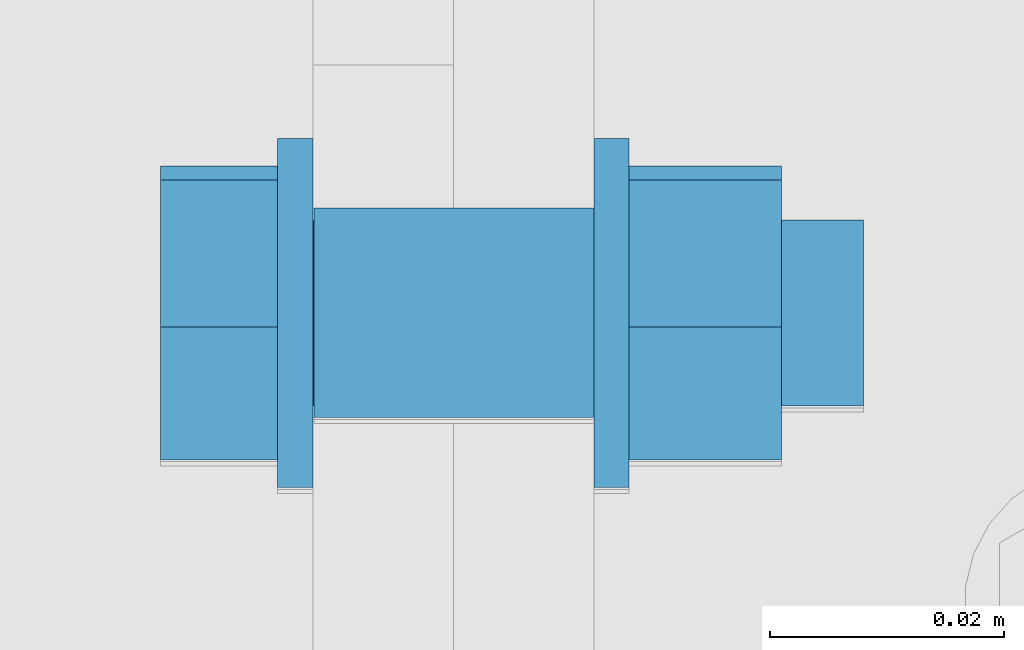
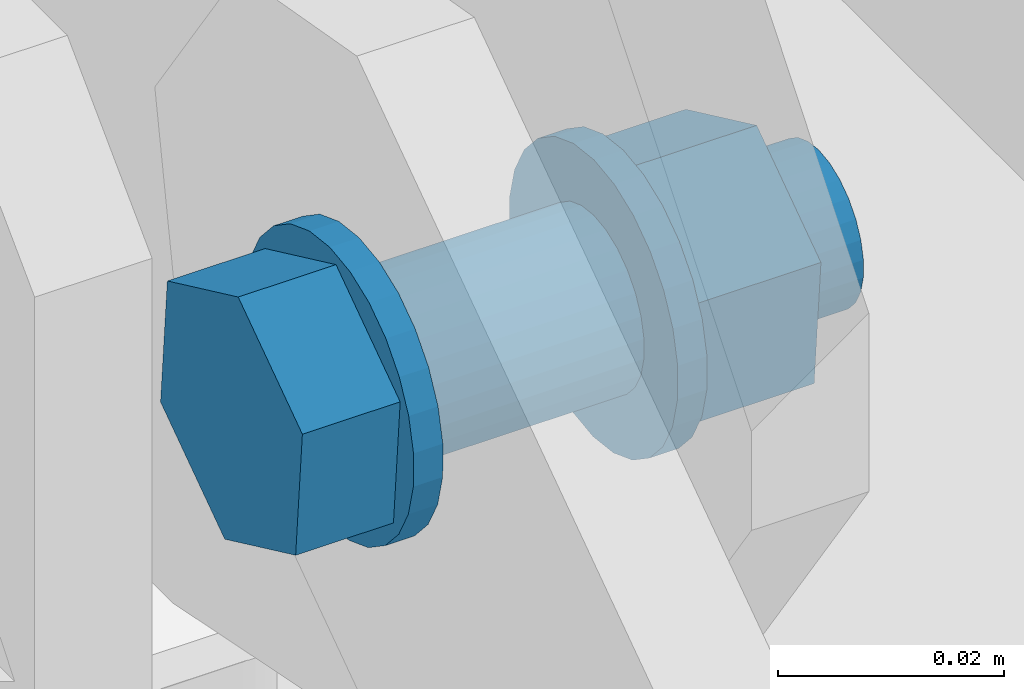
# One storey, part 239 of 271: 1 mechanical fastener, 1 element without a shape of its own.
"""IFC2X3 building model written with IfcOpenShell, lengths in millimetres."""

from ifc_helpers import new_model, si_unit, frame, origin_with_axes, origin_2d_with_axis, place, context, subcontext, project, spatial, polyline, circle, outline, extrude, source, transform, mapped, material, type_object, element, aggregate, save


model = new_model("IFC2X3")

# Units and contexts
model_context = context("Model", 3, precision=1e-05, world=origin_with_axes())
body_context = subcontext(model_context, "Body", "Model", "MODEL_VIEW")
ifc_project = project(units=[si_unit("LENGTHUNIT", "METRE", prefix="MILLI"), si_unit("AREAUNIT", "SQUARE_METRE"), si_unit("VOLUMEUNIT", "CUBIC_METRE"), si_unit("MASSUNIT", "GRAM", prefix="KILO"), si_unit("TIMEUNIT", "SECOND"), si_unit("PLANEANGLEUNIT", "RADIAN"), si_unit("SOLIDANGLEUNIT", "STERADIAN"), si_unit("THERMODYNAMICTEMPERATUREUNIT", "DEGREE_CELSIUS"), si_unit("LUMINOUSINTENSITYUNIT", "LUMEN")], contexts=[model_context])

# Site, building, storey
site_placement = place(None, origin_with_axes())
site = spatial("IfcSite", under=ifc_project, at=site_placement, Name="Undefined", CompositionType="ELEMENT")
building_placement = place(site_placement, origin_with_axes())
building = spatial("IfcBuilding", under=site, at=building_placement, Name="Undefined", CompositionType="ELEMENT")
storey_placement = place(building_placement, origin_with_axes())
storey = spatial("IfcBuildingStorey", under=building, at=storey_placement, Name="Undefined", CompositionType="ELEMENT", Elevation=0.0)

# Assembly, mechanical fastener
assembly_placement = place(storey_placement, origin_with_axes())
assembly = element("IfcElementAssembly", 1, at=assembly_placement, inside=storey, AssemblyPlace="NOTDEFINED", PredefinedType="RIGID_FRAME")
ifc_material = material(Name="Undefined")
mechanical_fastener_type = type_object("IfcMechanicalFastenerType", Name="Bolt assembly")
shared_shape = source(origin_with_axes(), body_context, "Body", "SweptSolid", [
    extrude(circle(Radius=9.0, at=origin_2d_with_axis()), frame((0.0, -6.1, 0.0), z_axis=(0.0, 1.0, 0.0), x_axis=(1.0, 0.0, 0.0)), (0.0, 0.0, 1.0), 12.1),
    extrude(circle(Radius=9.0, at=origin_2d_with_axis()), frame((0.0, -17.9, 0.0), z_axis=(0.0, 1.0, 0.0), x_axis=(1.0, 0.0, 0.0)), (0.0, 0.0, 1.0), 12.0),
    extrude(outline(polyline([(13.85640646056, 0.0), (6.92820323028, 12.0000000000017), (-6.92820323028, 12.0000000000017), (-13.85640646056, 0.0), (-6.92820323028, -12.0000000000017), (6.92820323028, -12.0000000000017), (13.85640646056, 0.0)])), frame((0.0, -31.0, 0.0), z_axis=(0.0, 1.0, 0.0), x_axis=(1.0, 0.0, 0.0)), (0.0, 0.0, 1.0), 10.0),
    extrude(circle(Radius=8.0, at=origin_2d_with_axis()), frame((0.0, -21.0, 0.0), z_axis=(0.0, 1.0, 0.0), x_axis=(1.0, 0.0, 0.0)), (0.0, 0.0, 1.0), 50.0),
    extrude(circle(Radius=15.0, at=origin_2d_with_axis()), frame((0.0, -21.0, 0.0), z_axis=(0.0, 1.0, 0.0), x_axis=(1.0, 0.0, 0.0)), (0.0, 0.0, 1.0), 3.0),
    extrude(circle(Radius=15.0, at=origin_2d_with_axis()), frame((0.0, 6.0, 0.0), z_axis=(0.0, 1.0, 0.0), x_axis=(1.0, 0.0, 0.0)), (0.0, 0.0, 1.0), 3.0),
    extrude(outline(polyline([(13.85640646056, 0.0), (6.92820323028, 12.0000000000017), (-6.92820323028, 12.0000000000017), (-13.85640646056, 0.0), (-6.92820323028, -12.0000000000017), (6.92820323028, -12.0000000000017), (13.85640646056, 0.0)])), frame((0.0, 9.0, 0.0), z_axis=(0.0, 1.0, 0.0), x_axis=(1.0, 0.0, 0.0)), (0.0, 0.0, 1.0), 13.0),
])
mechanical_fastener_placement = place(assembly_placement, frame((6359.37568798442, 1876.83561059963, 1292.86743175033), z_axis=(0.0, -0.572558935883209, 0.819863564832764), x_axis=(0.0, -0.819863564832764, -0.572558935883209)))
mechanical_fastener = element("IfcMechanicalFastener", 2, at=mechanical_fastener_placement, type_object=mechanical_fastener_type, material=ifc_material, Name="Bolt assembly", NominalDiameter=16.0, NominalLength=50.0, context=body_context, shape_type="MappedRepresentation", body=[
    mapped(shared_shape, transform((0.0, 0.0, 0.0))),
])
aggregate(assembly, [mechanical_fastener])

save(model, "model.ifc")
